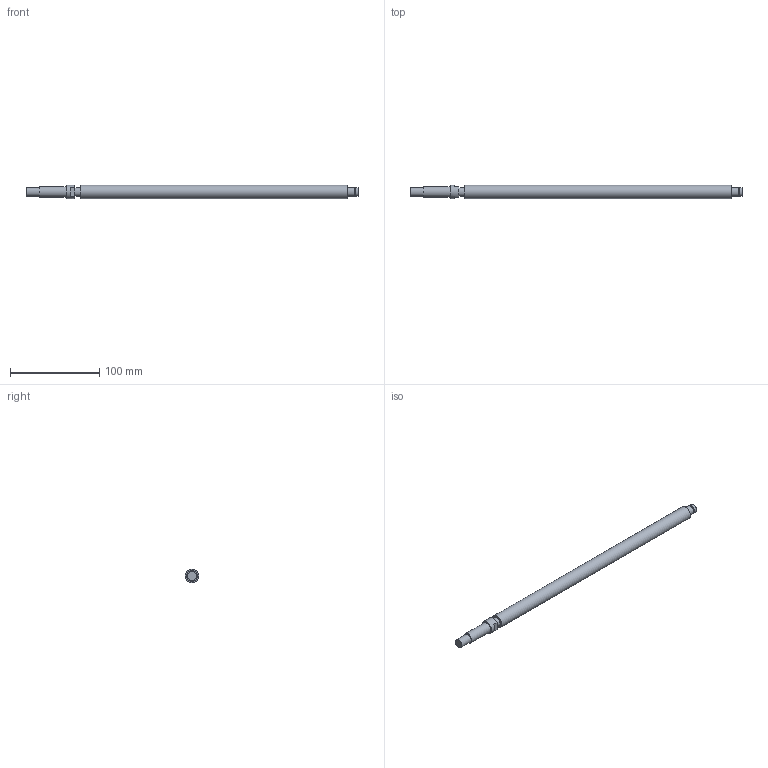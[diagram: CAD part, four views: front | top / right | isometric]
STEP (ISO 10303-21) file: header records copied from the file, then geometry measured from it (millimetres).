
FILE_DESCRIPTION((''),'2;1');
FILE_NAME('D:\製品 (図面)\カタログ用3D\ネジ関連\STEP形式\JK\JK15(SUH12用).stp','2010-06-11T10:48:27',('Tsuchiya'),(''),'Autodesk Inventor 10','Autodesk Inventor 10','');
FILE_SCHEMA(('AUTOMOTIVE_DESIGN { 1 0 10303 214 1 1 1 1 }'));
Length unit declared in the file: millimetre
Products named in the file (1): JK15(SUH12用)
Bounding box: 373 x 15 x 15 mm (x, y, z)
Volume: 60667.2 mm3; surface area: 17330.2 mm2
Topology: 1 solids, 1 shells, 21 faces, 36 edges, 24 vertices
Faces by surface type: plane 13, cylinder 8
Full cylindrical faces by diameter (mm): 9.6 x1, 10 x4, 12 x1, 15 x2
Entity records: 483 total; most frequent: DIRECTION 90, CARTESIAN_POINT 72, ORIENTED_EDGE 54, AXIS2_PLACEMENT_3D 41, EDGE_LOOP 36, EDGE_CURVE 27, VERTEX_POINT 23, FACE_OUTER_BOUND 21
